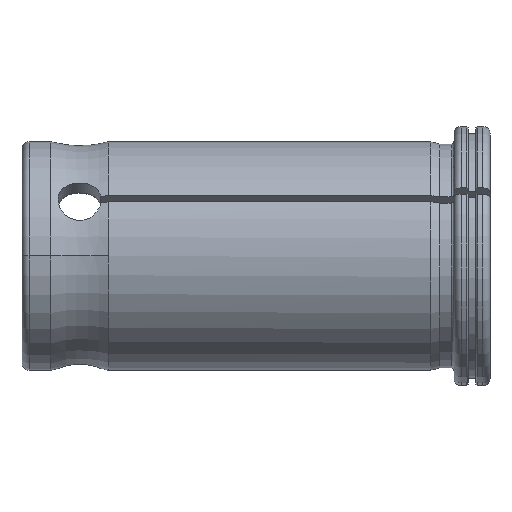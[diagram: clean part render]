
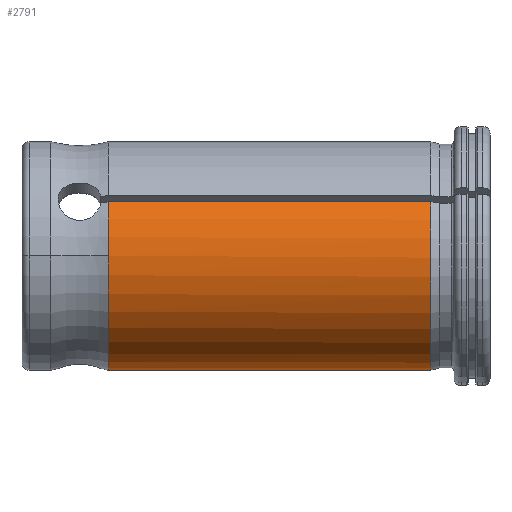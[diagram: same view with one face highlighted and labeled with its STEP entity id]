
A CAD part, top view. The second image highlights one B-rep face of the part: STEP entity #2791.
In plain terms, the highlighted cylindrical face has radius 15.875 mm (diameter 31.75 mm), a partial arc.
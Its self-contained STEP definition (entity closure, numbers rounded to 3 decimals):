
#777=CARTESIAN_POINT('',(-8.213,7.501,13.991));
#794=CARTESIAN_POINT('',(-8.213,-15.867,0.5));
#822=DIRECTION('',(1.,0.,0.));
#823=VECTOR('',#822,44.787);
#824=CARTESIAN_POINT('',(-53.,7.501,13.991));
#825=LINE('',#824,#823);
#826=CARTESIAN_POINT('',(-8.213,0.,0.));
#827=DIRECTION('',(1.,0.,0.));
#828=DIRECTION('',(0.,0.472,0.881));
#829=AXIS2_PLACEMENT_3D('',#826,#827,#828);
#831=DIRECTION('',(1.,0.,0.));
#832=VECTOR('',#831,44.787);
#833=CARTESIAN_POINT('',(-53.,-15.867,0.5));
#834=LINE('',#833,#832);
#849=CARTESIAN_POINT('',(-53.,0.,0.));
#850=DIRECTION('',(1.,0.,0.));
#851=DIRECTION('',(0.,0.472,0.881));
#852=AXIS2_PLACEMENT_3D('',#849,#850,#851);
#1482=CARTESIAN_POINT('',(-53.,0.,0.));
#1483=DIRECTION('',(-1.,0.,0.));
#1484=DIRECTION('',(0.,-1.,0.031));
#1485=AXIS2_PLACEMENT_3D('',#1482,#1483,#1484);
#1666=CARTESIAN_POINT('',(-53.,0.,15.875));
#1668=VERTEX_POINT('',#1666);
#1756=VERTEX_POINT('',#794);
#1758=CARTESIAN_POINT('',(-53.,-15.867,0.5));
#1759=VERTEX_POINT('',#1758);
#1916=VERTEX_POINT('',#777);
#1919=CARTESIAN_POINT('',(-53.,7.501,13.991));
#1920=VERTEX_POINT('',#1919);
#2775=CARTESIAN_POINT('',(-68.25,0.,0.));
#2776=DIRECTION('',(1.,0.,0.));
#2777=DIRECTION('',(0.,0.,1.));
#2778=AXIS2_PLACEMENT_3D('',#2775,#2776,#2777);
#2779=CYLINDRICAL_SURFACE('',#2778,15.875);
#2781=ORIENTED_EDGE('',*,*,#2780,.T.);
#2782=ORIENTED_EDGE('',*,*,#2740,.T.);
#2784=ORIENTED_EDGE('',*,*,#2783,.F.);
#2786=ORIENTED_EDGE('',*,*,#2785,.T.);
#2788=ORIENTED_EDGE('',*,*,#2787,.F.);
#2789=EDGE_LOOP('',(#2781,#2782,#2784,#2786,#2788));
#2790=FACE_OUTER_BOUND('',#2789,.F.);
#2791=ADVANCED_FACE('',(#2790),#2779,.T.);
#830=CIRCLE('',#829,15.875);
#853=CIRCLE('',#852,15.875);
#1486=CIRCLE('',#1485,15.875);
#2740=EDGE_CURVE('',#1916,#1756,#830,.T.);
#2780=EDGE_CURVE('',#1920,#1916,#825,.T.);
#2783=EDGE_CURVE('',#1759,#1756,#834,.T.);
#2785=EDGE_CURVE('',#1759,#1668,#1486,.T.);
#2787=EDGE_CURVE('',#1920,#1668,#853,.T.);
